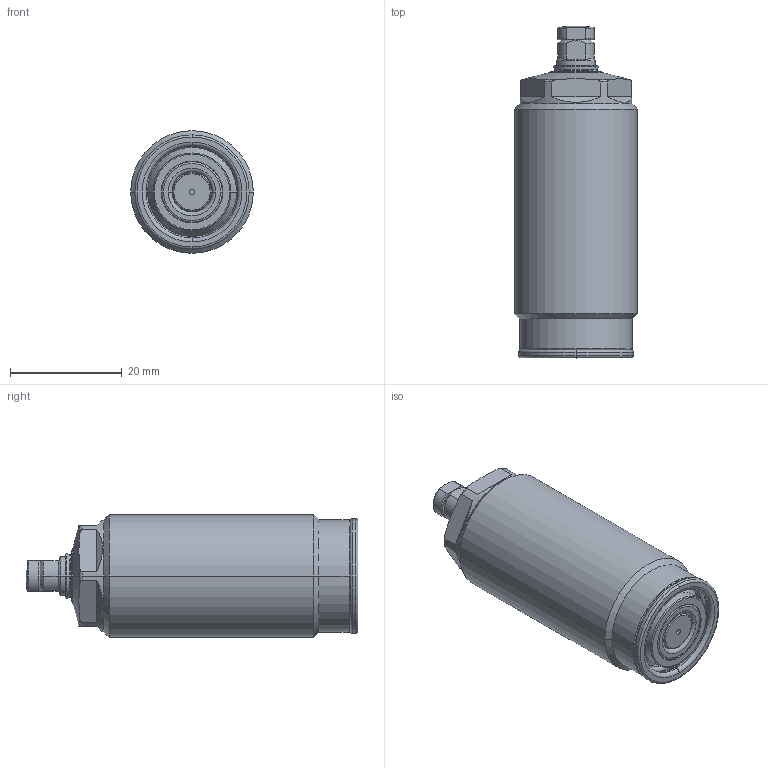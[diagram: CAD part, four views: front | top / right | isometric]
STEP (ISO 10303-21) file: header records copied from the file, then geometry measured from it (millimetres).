
FILE_DESCRIPTION(/* description */ (''),/* implementation_level */ '2;1');
FILE_NAME(/* name */ 'TSC22.stp',/* time_stamp */ '2026-02-04T14:06:15+08:00',/* author */ (''),/* organization */ (''),/* preprocessor_version */ 'ST-DEVELOPER v16.7',/* originating_system */ 'SIEMENS PLM Software NX 12.0',/* authorisation */ '');
FILE_SCHEMA (('AUTOMOTIVE_DESIGN { 1 0 10303 214 3 1 1 1 }'));
Length unit declared in the file: millimetre
Products named in the file (7): XLD-M4_contactbolt; XLD-M4_Oring; TSC22-02; TSC22-01; AS568-017(90); TSC22-03; LD0223-x_step
Assembly tree (6 placements, depth 3):
  LD0223-x_step
    AS568-017(90)
    TSC22-01
    TSC22-02
    TSC22-03
      XLD-M4_Oring
      XLD-M4_contactbolt
Bounding box: 22 x 59.5 x 22 mm (x, y, z)
Volume: 18298.9 mm3; surface area: 5639.6 mm2
Topology: 5 solids, 5 shells, 179 faces, 386 edges, 227 vertices
Faces by surface type: torus 65, cylinder 45, plane 37, cone 30, sphere 2
Entity records: 5359 total; most frequent: CARTESIAN_POINT 1189, DIRECTION 967, ORIENTED_EDGE 772, AXIS2_PLACEMENT_3D 433, EDGE_CURVE 386, CIRCLE 247, VERTEX_POINT 227, EDGE_LOOP 193
